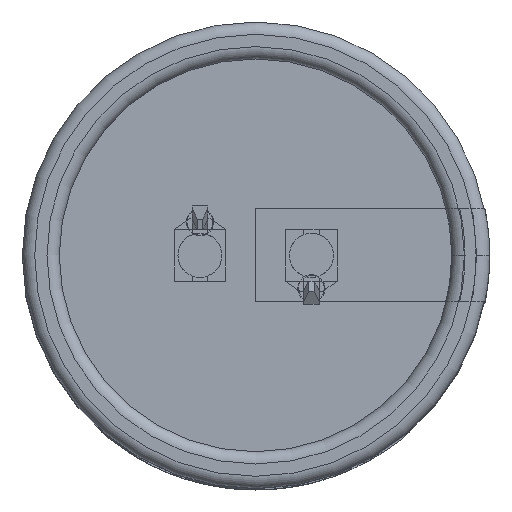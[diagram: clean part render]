
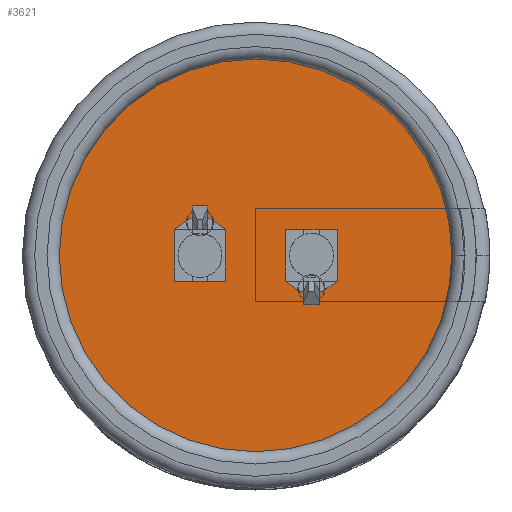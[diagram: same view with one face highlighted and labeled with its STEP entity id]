
A CAD part, top view. The second image highlights one B-rep face of the part: STEP entity #3621.
In plain terms, the highlighted planar face has unit normal (0, 0, 1).
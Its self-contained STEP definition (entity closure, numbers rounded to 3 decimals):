
#3528 = VERTEX_POINT('',#3529);
#3529 = CARTESIAN_POINT('',(15.15,0.,0.01));
#3536 = CYLINDRICAL_SURFACE('',#3537,15.15);
#3537 = AXIS2_PLACEMENT_3D('',#3538,#3539,#3540);
#3538 = CARTESIAN_POINT('',(0.,0.,0.));
#3539 = DIRECTION('',(0.,0.,-1.));
#3540 = DIRECTION('',(1.,0.,0.));
#3555 = EDGE_CURVE('',#3528,#3528,#3556,.T.);
#3556 = SURFACE_CURVE('',#3557,(#3562,#3569),.PCURVE_S1.);
#3557 = CIRCLE('',#3558,15.15);
#3558 = AXIS2_PLACEMENT_3D('',#3559,#3560,#3561);
#3559 = CARTESIAN_POINT('',(0.,0.,0.01));
#3560 = DIRECTION('',(0.,0.,1.));
#3561 = DIRECTION('',(1.,0.,0.));
#3562 = PCURVE('',#3536,#3563);
#3563 = DEFINITIONAL_REPRESENTATION('',(#3564),#3568);
#3564 = LINE('',#3565,#3566);
#3565 = CARTESIAN_POINT('',(0.,-0.01));
#3566 = VECTOR('',#3567,1.);
#3567 = DIRECTION('',(-1.,0.));
#3568 = ( GEOMETRIC_REPRESENTATION_CONTEXT(2) 
PARAMETRIC_REPRESENTATION_CONTEXT() REPRESENTATION_CONTEXT('2D SPACE',''
  ) );
#3569 = PCURVE('',#3570,#3575);
#3570 = PLANE('',#3571);
#3571 = AXIS2_PLACEMENT_3D('',#3572,#3573,#3574);
#3572 = CARTESIAN_POINT('',(15.15,0.,0.01));
#3573 = DIRECTION('',(0.,0.,-1.));
#3574 = DIRECTION('',(-1.,0.,0.));
#3575 = DEFINITIONAL_REPRESENTATION('',(#3576),#3584);
#3576 = ( BOUNDED_CURVE() B_SPLINE_CURVE(2,(#3577,#3578,#3579,#3580,
#3581,#3582,#3583),.UNSPECIFIED.,.F.,.F.) B_SPLINE_CURVE_WITH_KNOTS((1,2
    ,2,2,2,1),(-2.094,0.,2.094,4.189,
6.283,8.378),.UNSPECIFIED.) CURVE() 
GEOMETRIC_REPRESENTATION_ITEM() RATIONAL_B_SPLINE_CURVE((1.,0.5,1.,0.5,
1.,0.5,1.)) REPRESENTATION_ITEM('') );
#3577 = CARTESIAN_POINT('',(0.,0.));
#3578 = CARTESIAN_POINT('',(0.,26.241));
#3579 = CARTESIAN_POINT('',(22.725,13.12));
#3580 = CARTESIAN_POINT('',(45.45,0.));
#3581 = CARTESIAN_POINT('',(22.725,-13.12));
#3582 = CARTESIAN_POINT('',(0.,-26.241));
#3583 = CARTESIAN_POINT('',(0.,0.));
#3584 = ( GEOMETRIC_REPRESENTATION_CONTEXT(2) 
PARAMETRIC_REPRESENTATION_CONTEXT() REPRESENTATION_CONTEXT('2D SPACE',''
  ) );
#3621 = ADVANCED_FACE('',(#3622),#3570,.F.);
#3622 = FACE_BOUND('',#3623,.T.);
#3623 = EDGE_LOOP('',(#3624));
#3624 = ORIENTED_EDGE('',*,*,#3555,.T.);
